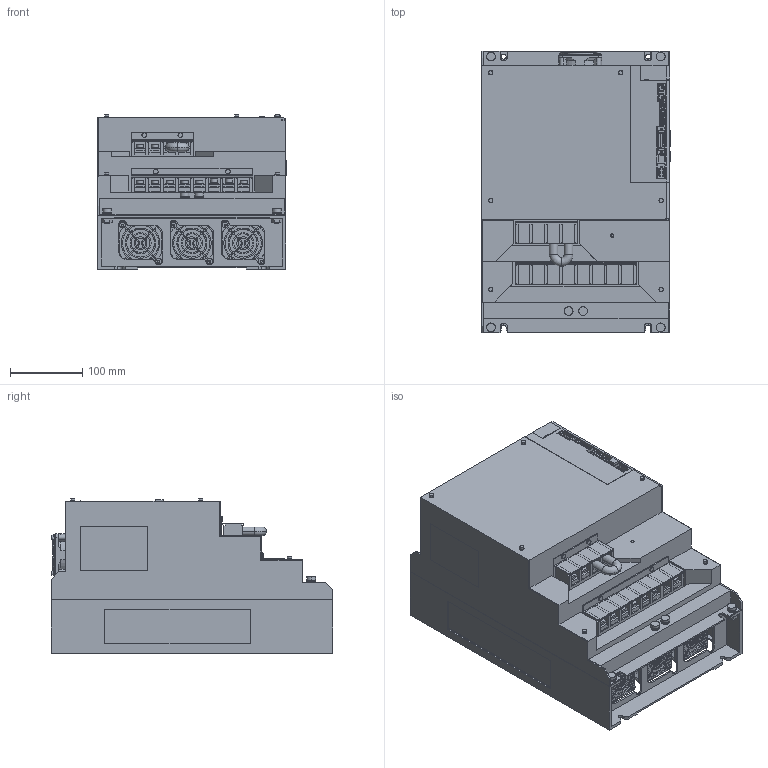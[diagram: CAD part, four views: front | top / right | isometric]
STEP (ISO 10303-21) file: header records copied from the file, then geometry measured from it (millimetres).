
FILE_DESCRIPTION (( 'STEP AP203' ), '1' );
FILE_NAME ('sgd7s_780a20a.STEP', '2015-09-18T08:36:01', ( '匠エンジニアリング山之内' ), ( 'TAKUMI-Engniaring' ), 'SwSTEP 2.0', 'SolidWorks 2006303', '' );
FILE_SCHEMA (( 'CONFIG_CONTROL_DESIGN' ));
Length unit declared in the file: millimetre
Products named in the file (8): sgd7s_780a20a_cover2; sgd7s_780a20a_connector; sgd7s_780a20a; sgd7s_780a20a_base; sgd7s_780a20a_cover; sgd7s_780a20a_cover3; sgd7s_780a20a_cover4; sgd7s_780a20a_terminal
Assembly tree (8 placements, depth 2):
  sgd7s_780a20a
    sgd7s_780a20a_connector
    sgd7s_780a20a_cover2  x2
    sgd7s_780a20a_base
    sgd7s_780a20a_cover3
    sgd7s_780a20a_terminal
    sgd7s_780a20a_cover4
    sgd7s_780a20a_cover
Bounding box: 260.6 x 390 x 213.6 mm (x, y, z)
Volume: 12215663.4 mm3; surface area: 1161327.5 mm2
Topology: 8 solids, 8 shells, 2854 faces, 8092 edges, 5335 vertices
Faces by surface type: plane 2182, cylinder 599, cone 68, torus 4, sphere 1
Entity records: 92756 total; most frequent: CARTESIAN_POINT 16637, ORIENTED_EDGE 16076, DIRECTION 15172, EDGE_CURVE 8038, VECTOR 6336, LINE 6336, VERTEX_POINT 5299, AXIS2_PLACEMENT_3D 4418
